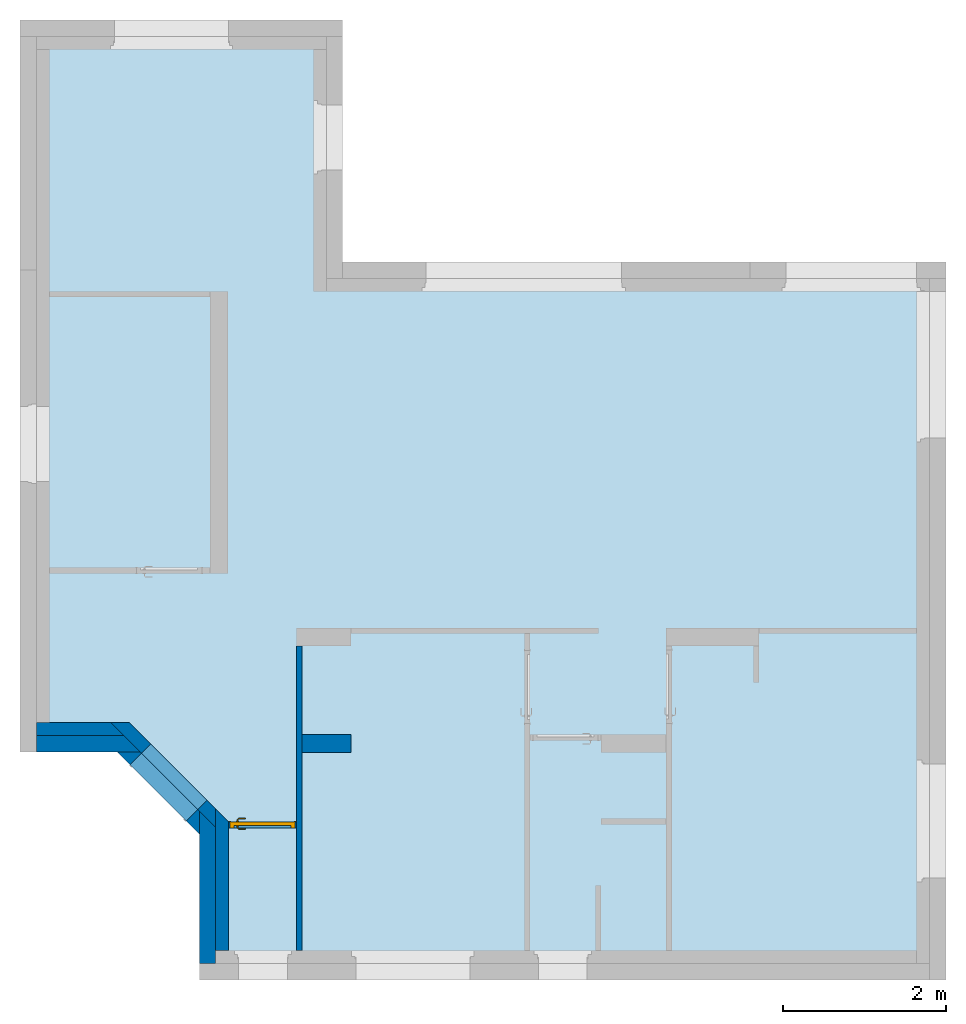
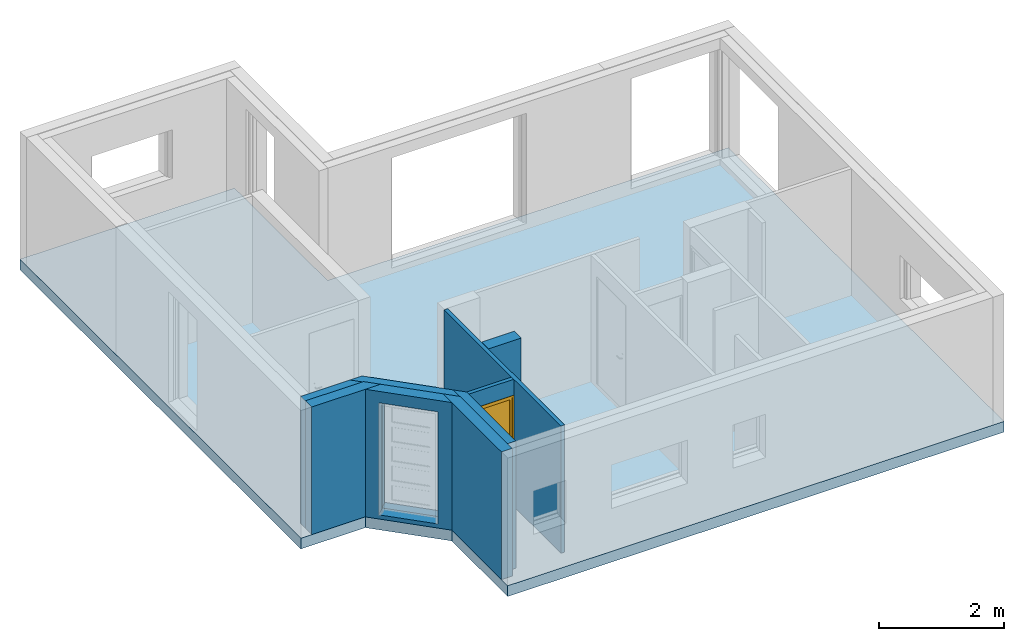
"""IFC2X3 building model written with IfcOpenShell, lengths in centimetres."""

from ifc_helpers import new_model, entity, si_unit, converted_unit, derived_unit, direction, frame, frame_2d, origin, place, context, subcontext, project, spatial, polyline, rectangle, outline, extrude, clip, bounded_halfspace, faceted_brep, source, transform, mapped, material, material_list, layer, layer_set, layer_usage, type_object, type_shapes, element, fill, save


model = new_model("IFC2X3")

# Units and contexts
model_context = context("Model", 3, precision=0.001, world=origin(), true_north=direction((6.12303176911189e-17, 1.0)))
body_context = subcontext(model_context, "Body", "Model", "MODEL_VIEW")
ifc_project = project(units=[si_unit("LENGTHUNIT", "METRE", prefix="CENTI"), si_unit("AREAUNIT", "SQUARE_METRE"), si_unit("VOLUMEUNIT", "CUBIC_METRE"), converted_unit("PLANEANGLEUNIT", "DEGREE", entity("IfcRatioMeasure", 0.0174532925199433), si_unit("PLANEANGLEUNIT", "RADIAN"), dimensions=[0, 0, 0, 0, 0, 0, 0]), si_unit("MASSUNIT", "GRAM", prefix="KILO"), derived_unit("MASSDENSITYUNIT", [(si_unit("MASSUNIT", "GRAM", prefix="KILO"), 1), (si_unit("LENGTHUNIT", "METRE"), -3)]), derived_unit("MOMENTOFINERTIAUNIT", [(si_unit("LENGTHUNIT", "METRE"), 4)]), si_unit("TIMEUNIT", "SECOND"), si_unit("FREQUENCYUNIT", "HERTZ"), si_unit("THERMODYNAMICTEMPERATUREUNIT", "DEGREE_CELSIUS"), derived_unit("THERMALTRANSMITTANCEUNIT", [(si_unit("MASSUNIT", "GRAM", prefix="KILO"), 1), (si_unit("THERMODYNAMICTEMPERATUREUNIT", "KELVIN"), -1), (si_unit("TIMEUNIT", "SECOND"), -3)]), derived_unit("VOLUMETRICFLOWRATEUNIT", [(si_unit("LENGTHUNIT", "METRE"), 3), (si_unit("TIMEUNIT", "SECOND"), -1)]), si_unit("ELECTRICCURRENTUNIT", "AMPERE"), si_unit("ELECTRICVOLTAGEUNIT", "VOLT"), si_unit("POWERUNIT", "WATT"), si_unit("FORCEUNIT", "NEWTON", prefix="KILO"), si_unit("ILLUMINANCEUNIT", "LUX"), si_unit("LUMINOUSFLUXUNIT", "LUMEN"), si_unit("LUMINOUSINTENSITYUNIT", "CANDELA"), derived_unit("USERDEFINED", [(si_unit("MASSUNIT", "GRAM", prefix="KILO"), -1), (si_unit("LENGTHUNIT", "METRE"), -2), (si_unit("TIMEUNIT", "SECOND"), 3), (si_unit("LUMINOUSFLUXUNIT", "LUMEN"), 1)]), derived_unit("LINEARVELOCITYUNIT", [(si_unit("LENGTHUNIT", "METRE"), 1), (si_unit("TIMEUNIT", "SECOND"), -1)]), si_unit("PRESSUREUNIT", "PASCAL"), derived_unit("USERDEFINED", [(si_unit("LENGTHUNIT", "METRE"), -2), (si_unit("MASSUNIT", "GRAM", prefix="KILO"), 1), (si_unit("TIMEUNIT", "SECOND"), -2)]), derived_unit("LINEARFORCEUNIT", [(si_unit("MASSUNIT", "GRAM", prefix="KILO"), 1), (si_unit("LENGTHUNIT", "METRE"), 1), (si_unit("TIMEUNIT", "SECOND"), -2), (si_unit("LENGTHUNIT", "METRE"), -1)]), derived_unit("PLANARFORCEUNIT", [(si_unit("MASSUNIT", "GRAM", prefix="KILO"), 1), (si_unit("LENGTHUNIT", "METRE"), 1), (si_unit("TIMEUNIT", "SECOND"), -2), (si_unit("LENGTHUNIT", "METRE"), -2)])], contexts=[model_context])

# Site, building, storey
site_placement = place(None, origin())
site = spatial("IfcSite", under=ifc_project, at=site_placement, Name="Surface", CompositionType="ELEMENT")
building_placement = place(site_placement, origin())
building = spatial("IfcBuilding", under=site, at=building_placement, CompositionType="ELEMENT")
storey_1_placement = place(building_placement, frame((0.0, 0.0, -8.0)))
storey_1 = spatial("IfcBuildingStorey", under=building, at=storey_1_placement, Name="-0.08_Dessus plancher", CompositionType="ELEMENT", Elevation=-8.0)

# Slab
ifc_material_1 = material(Name="Maçonnerie - Béton")
ifc_layer_1 = layer(ifc_material_1, 21.0)
ifc_layer_set_1 = layer_set([ifc_layer_1], Name="Sol:Plancher 4+12+5")
ifc_layer_usage_1 = layer_usage(ifc_layer_set_1, "AXIS3", "POSITIVE", 0.0)
slab_type = type_object("IfcSlabType", Name="Sol:Plancher 4+12+5", PredefinedType="FLOOR", material=ifc_layer_set_1)
slab_placement = place(storey_1_placement, origin())
element("IfcSlab", 1, at=slab_placement, inside=storey_1, type_object=slab_type, material=ifc_layer_usage_1, Name="Sol:Plancher 4+12+5", ObjectType="Sol:Plancher 4+12+5", PredefinedType="FLOOR", context=body_context, shape_type="SweptSolid", body=[
    extrude(outline(polyline([(-259.64760301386, -402.536491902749), (638.352396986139, -402.536491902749), (638.352396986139, -6.53649190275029), (341.352396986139, -6.53649190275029), (341.352396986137, 733.46350809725), (-539.64760301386, 733.46350809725), (-539.647603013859, -182.53649190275), (-360.819175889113, -182.53649190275), (-259.647603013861, -283.708064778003), (-259.64760301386, -402.536491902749)])), frame((-1385.64076841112, 380.639920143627, 0.0), z_axis=(0.0, 0.0, -1.0), x_axis=(0.0, 1.0, 0.0)), (0.0, 0.0, 1.0), 21.0),
])

# Wall, opening
ifc_layer_2 = layer(ifc_material_1, 20.0)
ifc_layer_set_2 = layer_set([ifc_layer_2], Name="Mur de base:Mur 20")
ifc_layer_usage_2 = layer_usage(ifc_layer_set_2, "AXIS2", "NEGATIVE", 10.0)
wall_type_1 = type_object("IfcWallType", Name="Mur de base:Mur 20", PredefinedType="STANDARD", material=ifc_layer_set_2)
wall_1_placement = place(storey_1_placement, frame((-1558.17726031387, -139.007682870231, 0.0), z_axis=(0.0, 0.0, 1.0), x_axis=(0.0, 1.0, 0.0)))
wall_1 = element("IfcWallStandardCase", 2, at=wall_1_placement, inside=storey_1, type_object=wall_type_1, material=ifc_layer_usage_2, Name="Mur de base:Mur 20", ObjectType="Mur de base:Mur 20", context=body_context, shape_type="Clipping", body=[
    clip(extrude(outline(polyline([(167.112698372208, -10.0), (187.112698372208, 10.0), (158.828427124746, 10.0), (0.0, 10.0), (0.0, -10.0), (16.0, -10.0), (167.112698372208, -10.0)])), origin(), (0.0, 0.0, 1.0), 249.0), bounded_halfspace(frame((0.0, -10.0, 249.0), z_axis=(0.0, 0.0, -1.0), x_axis=(-1.0, 0.0, 0.0)), True, frame((0.0, -10.0, 249.0)), polyline([(0.0, 0.0), (167.112698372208, 0.0), (187.112698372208, 20.0), (158.828427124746, 20.0), (0.0, 20.0), (0.0, 0.0)]))),
])
opening_1_placement = place(wall_1_placement, origin())
element("IfcOpeningElement", 3, at=opening_1_placement, cuts=wall_1, Name="Mur de base:Mur 20", ObjectType="Opening", context=body_context, shape_type="SweptSolid", body=[
    extrude(rectangle(XDim=218.809999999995, YDim=97.6200000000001, at=frame_2d((1.17239551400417e-13, 0.0), x_axis=(0.0, 1.0))), frame((223.709398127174, 46.5966997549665, 117.404999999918), z_axis=(-0.707106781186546, 0.707106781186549, 0.0), x_axis=(-0.707106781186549, -0.707106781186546, 0.0)), (0.0, 0.0, 1.0), 20.0000000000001),
])

# Wall
ifc_layer_usage_3 = layer_usage(ifc_layer_set_2, "AXIS2", "POSITIVE", -10.0)
wall_2_placement = place(storey_1_placement, frame((-1768.17726031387, 130.992317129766, 0.0)))
element("IfcWallStandardCase", 4, at=wall_2_placement, inside=storey_1, type_object=wall_type_1, material=ifc_layer_usage_3, Name="Mur de base:Mur 20", ObjectType="Mur de base:Mur 20", context=body_context, shape_type="Clipping", body=[
    clip(extrude(outline(polyline([(127.112698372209, -10.0), (107.112698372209, 10.0), (0.0, 10.0), (0.0, -10.0), (98.8284271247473, -10.0), (127.112698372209, -10.0)])), origin(), (0.0, 0.0, 1.0), 249.0), bounded_halfspace(frame((0.0, -10.0, 249.0), z_axis=(0.0, 0.0, -1.0), x_axis=(0.0, -1.0, 0.0)), True, frame((0.0, -10.0, 249.0)), polyline([(0.0, 0.0), (98.8284271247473, 0.0), (127.112698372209, 0.0), (107.112698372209, 20.0), (0.0, 20.0), (0.0, 0.0)]))),
])

# Wall, openings
ifc_layer_usage_4 = layer_usage(ifc_layer_set_2, "AXIS2", "POSITIVE", -10.0)
wall_3_placement = place(storey_1_placement, frame((-1662.27776537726, 128.063384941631, 0.0), z_axis=(0.0, 0.0, 1.0), x_axis=(0.707106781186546, -0.707106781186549, 0.0)))
wall_3 = element("IfcWallStandardCase", 5, at=wall_3_placement, inside=storey_1, type_object=wall_type_1, material=ifc_layer_usage_4, Name="Mur de base:Mur 20", ObjectType="Mur de base:Mur 20", context=body_context, shape_type="Clipping", body=[
    clip(extrude(outline(polyline([(143.078210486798, -10.0), (123.078210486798, 10.0), (20.0, 10.0), (0.0, -10.0), (143.078210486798, -10.0)])), origin(), (0.0, 0.0, 1.0), 249.0), bounded_halfspace(frame((0.0, -10.0, 249.0), z_axis=(0.0, 0.0, -1.0), x_axis=(0.707106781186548, -0.707106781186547, 0.0)), True, frame((0.0, -10.0, 249.0)), polyline([(0.0, 0.0), (143.078210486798, 0.0), (123.078210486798, 20.0), (20.0, 20.0), (0.0, 0.0)]))),
])
opening_2_placement = place(wall_3_placement, frame((1265.96236802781, 1084.85339219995, 8.0), z_axis=(0.0, 0.0, 1.0), x_axis=(0.707106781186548, 0.707106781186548, 0.0)))
element("IfcOpeningElement", 6, at=opening_2_placement, cuts=wall_3, Name="Mur de base:Mur 20", ObjectType="Opening", context=body_context, shape_type="SweptSolid", body=[
    extrude(rectangle(XDim=218.809999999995, YDim=97.6200000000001, at=frame_2d((0.0, -1.17239551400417e-13), x_axis=(1.0, 0.0))), frame((-1726.6791691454, -37.2034938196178, 109.404999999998), z_axis=(0.707106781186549, 0.707106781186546, 0.0), x_axis=(0.0, 0.0, 1.0)), (0.0, 0.0, 1.0), 304.8),
])
opening_3_placement = place(wall_3_placement, frame((22.5126613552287, -10.0, 8.0)))
element("IfcOpeningElement", 7, at=opening_3_placement, cuts=wall_3, Name="Porte d'entrée gris:90 x 215 cm:1", ObjectType="Opening", context=body_context, shape_type="SweptSolid", body=[
    extrude(rectangle(XDim=218.809999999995, YDim=97.6200000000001, at=frame_2d((109.404999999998, 48.8100000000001), x_axis=(1.0, 0.0))), frame((0.0, 0.0, 0.0), z_axis=(0.0, 1.0, 0.0), x_axis=(0.0, 0.0, 1.0)), (0.0, 0.0, 1.0), 20.0),
])

# Wall
ifc_material_2 = material(Name="Plâtre")
ifc_layer_3 = layer(ifc_material_2, 1.0)
ifc_material_3 = material(Name="Mur par défaut")
ifc_layer_4 = layer(ifc_material_3, 20.0)
ifc_layer_5 = layer(ifc_material_2, 1.0)
ifc_layer_set_3 = layer_set([ifc_layer_3, ifc_layer_4, ifc_layer_5], Name="Mur de base:Mur refend 22")
ifc_layer_usage_5 = layer_usage(ifc_layer_set_3, "AXIS2", "NEGATIVE", 11.0)
wall_type_2 = type_object("IfcWallType", Name="Mur de base:Mur refend 22", PredefinedType="STANDARD", material=ifc_layer_set_3)
wall_4_placement = place(storey_1_placement, frame((-1442.17726031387, 130.992317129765, 0.0)))
element("IfcWallStandardCase", 8, at=wall_4_placement, inside=storey_1, type_object=wall_type_2, material=ifc_layer_usage_5, Name="Mur de base:Mur refend 22", ObjectType="Mur de base:Mur refend 22", context=body_context, shape_type="Clipping", body=[
    clip(extrude(rectangle(XDim=59.9999999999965, YDim=22.0, at=frame_2d((29.9999999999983, -4.44089209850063e-15), x_axis=(-1.0, 0.0))), origin(), (0.0, 0.0, 1.0), 249.0), bounded_halfspace(frame((0.0, -11.0, 249.0), z_axis=(0.0, 0.0, -1.0), x_axis=(0.0, -1.0, 0.0)), True, frame((0.0, -11.0, 249.0)), polyline([(0.0, 0.0), (60.0, 0.0), (60.0, 22.0), (0.0, 22.0), (0.0, 0.0)]))),
])

# Wall, opening
ifc_material_4 = material(Name="Isolant rigide")
ifc_layer_6 = layer(ifc_material_4, 16.0)
ifc_layer_set_4 = layer_set([ifc_layer_6], Name="Mur de base:Doublage 16")
ifc_layer_usage_6 = layer_usage(ifc_layer_set_4, "AXIS2", "NEGATIVE", 8.0)
wall_type_3 = type_object("IfcWallType", Name="Mur de base:Doublage 16", PredefinedType="STANDARD", material=ifc_layer_set_4)
wall_5_placement = place(storey_1_placement, frame((-1540.17726031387, -123.00768287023, 0.0), z_axis=(0.0, 0.0, 1.0), x_axis=(0.0, 1.0, 0.0)))
wall_5 = element("IfcWallStandardCase", 9, at=wall_5_placement, inside=storey_1, type_object=wall_type_3, material=ifc_layer_usage_6, Name="Mur de base:Doublage 16", ObjectType="Mur de base:Doublage 16", context=body_context, shape_type="SweptSolid", body=[
    extrude(outline(polyline([(157.740115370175, -8.0), (173.740115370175, 8.0), (151.112698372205, 8.0), (0.0, 8.0), (0.0, -8.0), (150.740115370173, -8.0), (157.740115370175, -8.0)])), origin(), (0.0, 0.0, 1.0), 248.0),
])
opening_4_placement = place(wall_5_placement, origin())
element("IfcOpeningElement", 10, at=opening_4_placement, cuts=wall_5, Name="Mur de base:Doublage 16", ObjectType="Opening", context=body_context, shape_type="SweptSolid", body=[
    extrude(rectangle(XDim=218.809999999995, YDim=97.6200000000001, at=frame_2d((1.17239551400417e-13, 0.0), x_axis=(0.0, 1.0))), frame((207.709398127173, 64.5966997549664, 117.404999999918), z_axis=(-0.707106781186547, 0.707106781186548, 0.0), x_axis=(-0.707106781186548, -0.707106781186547, 0.0)), (0.0, 0.0, 1.0), 19.9999999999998),
])

ifc_layer_usage_7 = layer_usage(ifc_layer_set_4, "AXIS2", "NEGATIVE", 8.0)
wall_6_placement = place(storey_1_placement, frame((-1542.52040606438, 33.7618697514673, 0.0), z_axis=(0.0, 0.0, 1.0), x_axis=(-0.707106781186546, 0.707106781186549, 0.0)))
wall_6 = element("IfcWallStandardCase", 11, at=wall_6_placement, inside=storey_1, type_object=wall_type_3, material=ifc_layer_usage_7, Name="Mur de base:Doublage 16", ObjectType="Mur de base:Doublage 16", context=body_context, shape_type="SweptSolid", body=[
    extrude(outline(polyline([(166.274169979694, -8.0), (182.274169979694, 8.0), (159.646752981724, 8.0), (131.362481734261, 8.0), (28.2842712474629, 8.0), (0.0, 8.0), (16.0, -8.0), (166.274169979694, -8.0)])), origin(), (0.0, 0.0, 1.0), 248.0),
])
opening_5_placement = place(wall_6_placement, origin())
element("IfcOpeningElement", 12, at=opening_5_placement, cuts=wall_6, Name="Mur de base:Doublage 16", ObjectType="Opening", context=body_context, shape_type="SweptSolid", body=[
    extrude(rectangle(XDim=218.809999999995, YDim=97.6200000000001, at=frame_2d((-1.17239551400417e-13, 0.0), x_axis=(0.0, 1.0))), frame((80.0398203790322, -124.400000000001, 117.404999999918), z_axis=(0.0, 1.0, 0.0), x_axis=(-1.0, 0.0, 0.0)), (0.0, 0.0, 1.0), 304.8),
])

# Walls
ifc_layer_usage_8 = layer_usage(ifc_layer_set_4, "AXIS2", "NEGATIVE", 8.0)
wall_7_placement = place(storey_1_placement, frame((-1661.06456194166, 148.992317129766, 0.0), z_axis=(0.0, 0.0, 1.0), x_axis=(-1.0, 0.0, 0.0)))
element("IfcWallStandardCase", 13, at=wall_7_placement, inside=storey_1, type_object=wall_type_3, material=ifc_layer_usage_8, Name="Mur de base:Doublage 16", ObjectType="Mur de base:Doublage 16", context=body_context, shape_type="SweptSolid", body=[
    extrude(outline(polyline([(107.112698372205, -8.0), (107.112698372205, 8.0), (0.0, 8.0), (16.0, -8.0), (91.1126983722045, -8.0), (107.112698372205, -8.0)])), origin(), (0.0, 0.0, 1.0), 248.0),
])
ifc_layer_7 = layer(ifc_material_3, 7.0)
ifc_layer_set_5 = layer_set([ifc_layer_7], Name="Mur de base:Cloison 7cm")
ifc_layer_usage_9 = layer_usage(ifc_layer_set_5, "AXIS2", "POSITIVE", -3.5)
wall_type_4 = type_object("IfcWallType", Name="Mur de base:Cloison 7cm", PredefinedType="STANDARD", material=ifc_layer_set_5)
wall_8_placement = place(storey_1_placement, frame((-1445.67726031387, -123.007682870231, 0.0), z_axis=(0.0, 0.0, 1.0), x_axis=(0.0, 1.0, 0.0)))
element("IfcWallStandardCase", 14, at=wall_8_placement, inside=storey_1, type_object=wall_type_4, material=ifc_layer_usage_9, Name="Mur de base:Cloison 7cm", ObjectType="Mur de base:Cloison 7cm", context=body_context, shape_type="SweptSolid", body=[
    extrude(rectangle(XDim=373.999999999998, YDim=7.00000000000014, at=frame_2d((186.999999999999, -1.57651669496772e-14), x_axis=(-1.0, 0.0))), origin(), (0.0, 0.0, 1.0), 248.0),
])

# Wall, openings
ifc_layer_usage_10 = layer_usage(ifc_layer_set_5, "AXIS2", "NEGATIVE", 3.5)
wall_9_placement = place(storey_1_placement, frame((-1449.17726031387, 31.2324324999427, 0.0), z_axis=(0.0, 0.0, 1.0), x_axis=(-1.0, 0.0, 0.0)))
wall_9 = element("IfcWallStandardCase", 15, at=wall_9_placement, inside=storey_1, type_object=wall_type_4, material=ifc_layer_usage_10, Name="Mur de base:Cloison 7cm", ObjectType="Mur de base:Cloison 7cm", context=body_context, shape_type="SweptSolid", body=[
    extrude(rectangle(XDim=83.0000000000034, YDim=7.00000000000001, at=frame_2d((41.5000000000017, -1.55431223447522e-15), x_axis=(-1.0, 0.0))), origin(), (0.0, 0.0, 1.0), 248.0),
])
opening_6_placement = place(wall_9_placement, frame((-1449.17726031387, 31.2324324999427, 8.0), z_axis=(0.0, 0.0, 1.0), x_axis=(-1.0, 0.0, 0.0)))
element("IfcOpeningElement", 16, at=opening_6_placement, cuts=wall_9, Name="Mur de base:Cloison 7cm", ObjectType="Opening", context=body_context, shape_type="SweptSolid", body=[
    extrude(rectangle(XDim=207.5, YDim=80.0, at=frame_2d((-1.4210854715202e-14, 0.0), x_axis=(1.0, 0.0))), frame((-1490.67726031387, 187.132432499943, 103.75), z_axis=(0.0, -1.0, 0.0), x_axis=(0.0, 0.0, 1.0)), (0.0, 0.0, 1.0), 304.8),
])
opening_7_placement = place(wall_9_placement, frame((81.5000000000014, 3.49999999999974, 8.0)))
opening_7 = element("IfcOpeningElement", 17, at=opening_7_placement, cuts=wall_9, Name="Int. Simple:PP (0.73m x 2.04m):1", ObjectType="Opening", context=body_context, shape_type="SweptSolid", body=[
    extrude(rectangle(XDim=207.5, YDim=79.9999999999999, at=frame_2d((103.75, 40.0), x_axis=(1.0, 0.0))), frame((0.0, 0.0, 0.0), z_axis=(0.0, -1.0, 0.0), x_axis=(0.0, 0.0, 1.0)), (0.0, 0.0, 1.0), 7.0),
])

# Storey
storey_2_placement = place(building_placement, origin())
storey_2 = spatial("IfcBuildingStorey", under=building, at=storey_2_placement, Name="1_Rez-de-chaussée", CompositionType="ELEMENT", Elevation=-7.93413063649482e-11)

# Door
ifc_material_5 = material(Name="Finition Peinture - Blanc satiné")
ifc_material_6 = material(Name="Bois - Panneau de porte")
ifc_material_7 = material(Name="Bois - Cadre de porte")
ifc_material_list_1 = material_list([ifc_material_5, ifc_material_6, ifc_material_7])
ifc_material_list_2 = material_list([ifc_material_5, ifc_material_7, ifc_material_6])
door_style = type_object("IfcDoorStyle", Name="Int. Simple:PP (0.73m x 2.04m)", ConstructionType="NOTDEFINED", OperationType="NOTDEFINED", ParameterTakesPrecedence=False, Sizeable=False, material=ifc_material_list_2)
shared_shape = source(origin(), body_context, "Body", "Brep", [
    faceted_brep([(79.5000000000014, -0.500000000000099, 87.0), (79.5000000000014, -0.500000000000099, 108.0), (78.5352761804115, -0.500000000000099, 108.399601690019), (77.5000000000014, -0.500000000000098, 108.535898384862), (76.4647238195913, -0.500000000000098, 108.399601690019), (75.5000000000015, -0.500000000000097, 108.0), (75.5000000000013, -0.500000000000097, 87.0), (76.4647238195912, -0.500000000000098, 86.6003983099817), (77.5000000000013, -0.500000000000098, 86.464101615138), (78.5352761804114, -0.500000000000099, 86.6003983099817), (79.5000000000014, 0.0, 108.0), (79.5000000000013, 0.0, 87.0), (78.5352761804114, 0.0, 86.6003983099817), (77.5000000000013, 0.0, 86.464101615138), (76.4647238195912, 0.0, 86.6003983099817), (75.5000000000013, 0.0, 87.0), (75.5000000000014, 0.0, 108.0), (76.4647238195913, 0.0, 108.399601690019), (77.5000000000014, 0.0, 108.535898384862), (78.5352761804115, 0.0, 108.399601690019)], [[[0, 1, 2, 3, 4, 5, 6, 7, 8, 9]], [[10, 11, 12, 13, 14, 15, 16, 17, 18, 19]], [[9, 12, 11, 0]], [[8, 13, 12, 9]], [[7, 14, 13, 8]], [[7, 6, 15, 14]], [[15, 6, 5, 16]], [[4, 17, 16, 5]], [[3, 18, 17, 4]], [[2, 19, 18, 3]], [[2, 1, 10, 19]], [[11, 10, 1, 0]]]),
    faceted_brep([(79.5000000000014, 4.0, 87.0), (79.5000000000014, 4.0, 108.0), (78.5352761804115, 4.0, 108.399601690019), (77.5000000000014, 4.0, 108.535898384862), (76.4647238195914, 4.0, 108.399601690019), (75.5000000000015, 4.0, 108.0), (75.5000000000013, 4.0, 87.0), (76.4647238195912, 4.0, 86.6003983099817), (77.5000000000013, 4.0, 86.464101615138), (78.5352761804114, 4.0, 86.6003983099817), (77.5000000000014, 4.4999999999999, 108.535898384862), (78.5352761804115, 4.4999999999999, 108.399601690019), (79.5000000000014, 4.4999999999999, 108.0), (79.5000000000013, 4.4999999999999, 87.0), (78.5352761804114, 4.4999999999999, 86.6003983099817), (77.5000000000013, 4.4999999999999, 86.464101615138), (76.4647238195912, 4.4999999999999, 86.6003983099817), (75.5000000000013, 4.4999999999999, 87.0), (75.5000000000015, 4.4999999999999, 108.0), (76.4647238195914, 4.4999999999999, 108.399601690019)], [[[0, 1, 2, 3, 4, 5, 6, 7, 8, 9]], [[10, 11, 12, 13, 14, 15, 16, 17, 18, 19]], [[4, 19, 18, 5]], [[3, 10, 19, 4]], [[2, 11, 10, 3]], [[2, 1, 12, 11]], [[13, 12, 1, 0]], [[9, 14, 13, 0]], [[8, 15, 14, 9]], [[7, 16, 15, 8]], [[7, 6, 17, 16]], [[17, 6, 5, 18]]]),
    faceted_brep([(77.2974701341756, -0.500000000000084, 100.778044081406), (77.7025298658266, -0.500000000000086, 100.778044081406), (78.1000000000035, -0.500000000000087, 100.699999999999), (78.1000000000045, -0.500000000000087, 99.2999999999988), (77.7025298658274, -0.500000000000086, 99.221955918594), (77.2974701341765, -0.500000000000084, 99.2219559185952), (76.8999999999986, -0.500000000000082, 99.3000000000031), (76.8999999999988, -0.500000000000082, 100.7), (77.7025298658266, -3.10045754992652, 100.778044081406), (78.1000000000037, -3.26509507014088, 100.7), (77.2974701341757, -2.93267631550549, 100.778044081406), (75.9298602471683, -4.30028620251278, 100.778044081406), (76.0976414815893, -4.7053459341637, 100.778044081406), (76.8999999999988, -2.76803879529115, 100.7), (76.8999999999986, -2.76803879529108, 99.3000000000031), (77.2974701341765, -2.93267631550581, 99.2219559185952), (77.7025298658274, -3.10045754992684, 99.221955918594), (76.0976414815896, -4.70534593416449, 99.221955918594), (75.9298602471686, -4.30028620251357, 99.2219559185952), (78.1000000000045, -3.26509507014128, 99.2999999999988), (76.2622790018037, -5.1028160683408, 100.7), (75.7652227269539, -3.90281606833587, 100.7), (75.7652227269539, -3.90281606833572, 99.3000000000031), (76.262279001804, -5.10281606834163, 99.2999999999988), (67.4981359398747, -5.10281606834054, 100.7), (67.4981359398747, -4.70534593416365, 100.778044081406), (67.4981359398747, -4.30028620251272, 100.778044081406), (67.4981359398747, -3.90281606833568, 100.699999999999), (67.4981359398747, -3.90281606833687, 99.3000000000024), (67.4981359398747, -4.30028620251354, 99.2219559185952), (67.4981359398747, -4.70534593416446, 99.221955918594), (67.4981359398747, -5.10281606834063, 99.2999999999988), (71.713998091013, -4.50281606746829, 100.78786867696), (72.2692302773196, -5.10281606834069, 100.7), (71.6316793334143, -3.90281606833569, 100.7), (71.6316793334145, -3.90281606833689, 99.3000000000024), (71.7139981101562, -4.50281607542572, 99.2121313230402), (72.2692310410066, -5.10281606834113, 99.2999999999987)], [[[0, 1, 2, 3, 4, 5, 6, 7]], [[2, 1, 8, 9]], [[1, 0, 10, 11, 12, 8]], [[0, 7, 13, 10]], [[14, 13, 7, 6]], [[5, 15, 14, 6]], [[5, 4, 16, 17, 18, 15]], [[3, 19, 16, 4]], [[9, 19, 3, 2]], [[9, 8, 12, 20]], [[10, 13, 21, 11]], [[22, 21, 13, 14]], [[14, 15, 18, 22]], [[16, 19, 23, 17]], [[20, 23, 19, 9]], [[24, 25, 26, 27, 28, 29, 30, 31]], [[32, 25, 33]], [[33, 25, 24]], [[33, 20, 12]], [[11, 34, 32]], [[34, 11, 21]], [[27, 26, 34]], [[32, 26, 25]], [[32, 34, 26]], [[32, 33, 12]], [[11, 32, 12]], [[21, 22, 35, 28, 27, 34]], [[36, 29, 35]], [[30, 36, 37]], [[18, 35, 22]], [[29, 28, 35]], [[30, 37, 31]], [[37, 17, 23]], [[36, 17, 37]], [[36, 18, 17]], [[36, 35, 18]], [[29, 36, 30]], [[23, 20, 33, 24, 31, 37]]]),
    faceted_brep([(77.2974701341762, 4.49999999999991, 99.2219559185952), (77.7025298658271, 4.49999999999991, 99.221955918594), (78.1000000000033, 4.49999999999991, 99.2999999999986), (78.1000000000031, 4.49999999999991, 100.7), (77.7025298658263, 4.49999999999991, 100.778044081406), (77.2974701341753, 4.49999999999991, 100.778044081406), (76.8999999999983, 4.49999999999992, 100.7), (76.8999999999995, 4.49999999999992, 99.3000000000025), (76.8999999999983, 6.74852045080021, 100.7), (76.8999999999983, 6.74852045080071, 99.3000000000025), (77.2974701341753, 6.91315797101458, 100.778044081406), (77.7025298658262, 7.0809392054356, 100.778044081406), (76.0838906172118, 8.69957845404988, 100.778044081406), (75.9161093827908, 8.29451872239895, 100.778044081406), (78.1000000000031, 7.24557672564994, 100.7), (78.1000000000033, 7.24557672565, 99.2999999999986), (77.7025298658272, 7.08093920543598, 99.221955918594), (77.2974701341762, 6.91315797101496, 99.2219559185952), (75.9161093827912, 8.29451872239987, 99.2219559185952), (76.0838906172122, 8.69957845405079, 99.221955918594), (75.7514718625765, 7.89704858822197, 100.7), (75.7514718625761, 7.89704858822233, 99.3000000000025), (76.2485281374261, 9.09704858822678, 100.7), (76.2485281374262, 9.09704858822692, 99.2999999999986), (67.4954216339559, 8.29451872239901, 100.778044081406), (67.4954216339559, 8.69957845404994, 100.778044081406), (67.4954216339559, 9.09704858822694, 100.7), (67.4954216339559, 9.09704858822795, 99.2999999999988), (67.4954216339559, 8.69957845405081, 99.221955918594), (67.4954216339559, 8.29451872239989, 99.2219559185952), (67.4954216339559, 7.897048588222, 99.3000000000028), (67.4954216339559, 7.89704858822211, 100.7), (71.6234467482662, 7.89704858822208, 100.7), (71.6234479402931, 7.89704858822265, 99.3000000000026), (71.7057655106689, 8.49704858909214, 100.78786867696), (72.2554794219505, 9.09704858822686, 100.7), (72.2554795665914, 9.09704858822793, 99.2999999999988), (71.7057654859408, 8.49704858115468, 99.2121313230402)], [[[0, 1, 2, 3, 4, 5, 6, 7]], [[8, 9, 7, 6]], [[5, 10, 8, 6]], [[5, 4, 11, 12, 13, 10]], [[3, 14, 11, 4]], [[14, 3, 2, 15]], [[2, 1, 16, 15]], [[1, 0, 17, 18, 19, 16]], [[0, 7, 9, 17]], [[20, 21, 9, 8]], [[8, 10, 13, 20]], [[14, 22, 12, 11]], [[23, 22, 14, 15]], [[15, 16, 19, 23]], [[17, 9, 21, 18]], [[24, 25, 26, 27, 28, 29, 30, 31]], [[21, 20, 32, 31, 30, 33]], [[34, 24, 32]], [[25, 34, 35]], [[13, 32, 20]], [[24, 31, 32]], [[25, 35, 26]], [[35, 12, 22]], [[34, 12, 35]], [[34, 13, 12]], [[34, 32, 13]], [[24, 34, 25]], [[22, 23, 36, 27, 26, 35]], [[37, 28, 36]], [[36, 28, 27]], [[36, 23, 19]], [[18, 33, 37]], [[33, 18, 21]], [[30, 29, 33]], [[37, 29, 28]], [[37, 33, 29]], [[37, 36, 19]], [[18, 37, 19]]]),
    faceted_brep([(83.5000000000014, 4.0, 204.0), (83.5000000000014, 4.0, 0.0), (10.5000000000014, 4.0, 0.0), (10.5000000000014, 4.0, 204.0), (83.5000000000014, 0.0, 204.0), (10.5000000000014, 0.0, 204.0), (10.5000000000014, 0.0, 0.0), (83.5000000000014, 0.0, 0.0)], [[[0, 1, 2, 3]], [[4, 5, 6, 7]], [[3, 5, 4, 0]], [[2, 6, 5, 3]], [[1, 7, 6, 2]], [[0, 4, 7, 1]]]),
    faceted_brep([(87.0, 0.0, 0.0), (83.5000000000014, 0.0, 0.0), (83.5000000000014, 4.0, 0.0), (82.0, 4.0, 0.0), (82.0, 7.0, 0.0), (87.0, 7.0, 0.0), (87.0, 7.0, 207.500000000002), (87.0, 0.0, 207.500000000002), (82.0, 7.0, 202.5), (12.0, 7.0, 202.5), (12.0, 7.0, 0.0), (7.0, 7.0, 0.0), (7.0, 7.0, 207.500000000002), (82.0, 4.0, 202.5), (83.5000000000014, 4.0, 204.0), (10.5000000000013, 4.0, 204.0), (10.5000000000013, 4.0, 0.0), (12.0, 4.0, 0.0), (12.0, 4.0, 202.5), (83.5000000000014, 0.0, 204.0), (7.0, 0.0, 207.500000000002), (7.0, 0.0, 0.0), (10.5000000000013, 0.0, 0.0), (10.5000000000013, 0.0, 204.0)], [[[0, 1, 2, 3, 4, 5]], [[5, 6, 7, 0]], [[4, 8, 9, 10, 11, 12, 6, 5]], [[3, 13, 8, 4]], [[2, 14, 15, 16, 17, 18, 13, 3]], [[1, 19, 14, 2]], [[0, 7, 20, 21, 22, 23, 19, 1]], [[12, 11, 21, 20]], [[21, 11, 10, 17, 16, 22]], [[18, 17, 10, 9]], [[23, 22, 16, 15]], [[6, 12, 20, 7]], [[13, 18, 9, 8]], [[19, 23, 15, 14]]]),
    faceted_brep([(85.5000000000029, 7.0, 0.0), (85.5000000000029, 7.49999999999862, 0.0), (88.5000000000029, 7.49999999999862, 0.0), (88.5000000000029, 7.0, 0.0), (88.5000000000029, 7.0, 209.0), (5.50000000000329, 7.0, 209.0), (5.5000000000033, 7.0, 0.0), (8.50000000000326, 7.0, 0.0), (8.50000000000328, 7.0, 206.0), (85.5000000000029, 7.0, 206.0), (88.5000000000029, 7.49999999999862, 209.0), (85.5000000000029, 7.49999999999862, 206.0), (8.50000000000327, 7.49999999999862, 206.0), (8.50000000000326, 7.49999999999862, 0.0), (5.5000000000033, 7.49999999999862, 0.0), (5.50000000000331, 7.49999999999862, 209.0)], [[[0, 1, 2, 3]], [[3, 4, 5, 6, 7, 8, 9, 0]], [[2, 10, 4, 3]], [[1, 11, 12, 13, 14, 15, 10, 2]], [[0, 9, 11, 1]], [[7, 6, 14, 13]], [[8, 7, 13, 12]], [[15, 14, 6, 5]], [[10, 15, 5, 4]], [[9, 8, 12, 11]]]),
    faceted_brep([(88.5000000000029, -0.5, 0.0), (88.5000000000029, -0.5, 209.0), (5.50000000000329, -0.5, 209.0), (5.5000000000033, -0.5, 0.0), (8.50000000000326, -0.5, 0.0), (8.50000000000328, -0.5, 206.0), (85.5000000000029, -0.5, 206.0), (85.5000000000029, -0.5, 0.0), (88.5000000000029, 0.0, 0.0), (88.5000000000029, 0.0, 209.0), (85.5000000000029, 0.0, 0.0), (85.5000000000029, 0.0, 206.0), (8.50000000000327, 0.0, 206.0), (8.50000000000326, 0.0, 0.0), (5.5000000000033, 0.0, 0.0), (5.50000000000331, 0.0, 209.0)], [[[0, 1, 2, 3, 4, 5, 6, 7]], [[8, 9, 1, 0]], [[10, 11, 12, 13, 14, 15, 9, 8]], [[7, 6, 11, 10]], [[5, 4, 13, 12]], [[15, 14, 3, 2]], [[9, 15, 2, 1]], [[6, 5, 12, 11]], [[4, 3, 14, 13]], [[7, 10, 8, 0]]]),
])
type_shapes(door_style, [shared_shape])
door_placement = place(opening_7_placement, frame((-87.0, -7.0, 0.0)))
door = element("IfcDoor", 18, at=door_placement, inside=storey_2, type_object=door_style, material=ifc_material_list_1, Name="Int. Simple:PP (0.73m x 2.04m)", ObjectType="Int. Simple:PP (0.73m x 2.04m)", OverallHeight=207.5, OverallWidth=80.0, context=body_context, shape_type="MappedRepresentation", body=[
    mapped(shared_shape, transform((0.0, 0.0, 0.0), scale=1.0)),
])

fill(opening_7, door)

save(model, "model.ifc")
